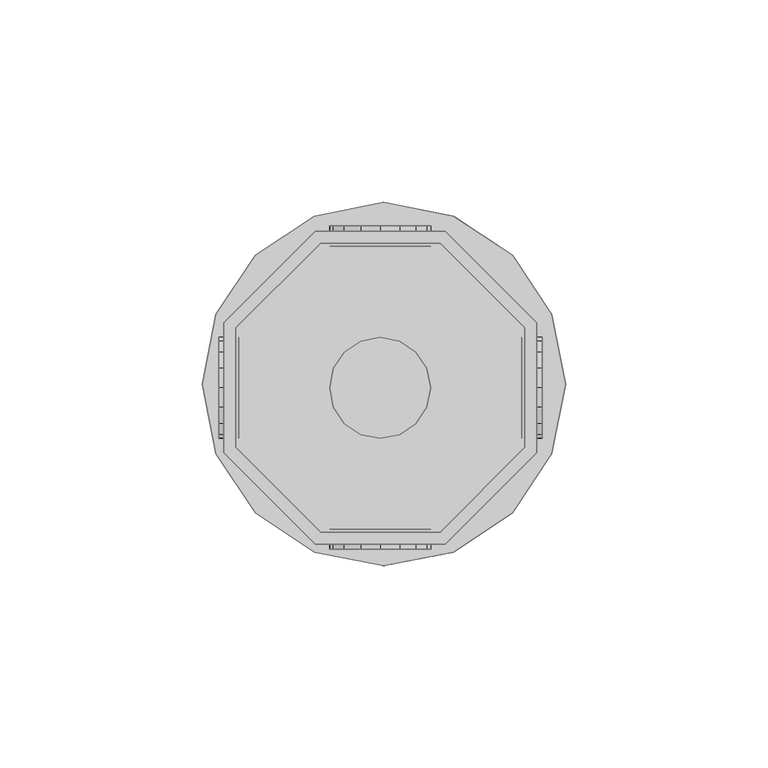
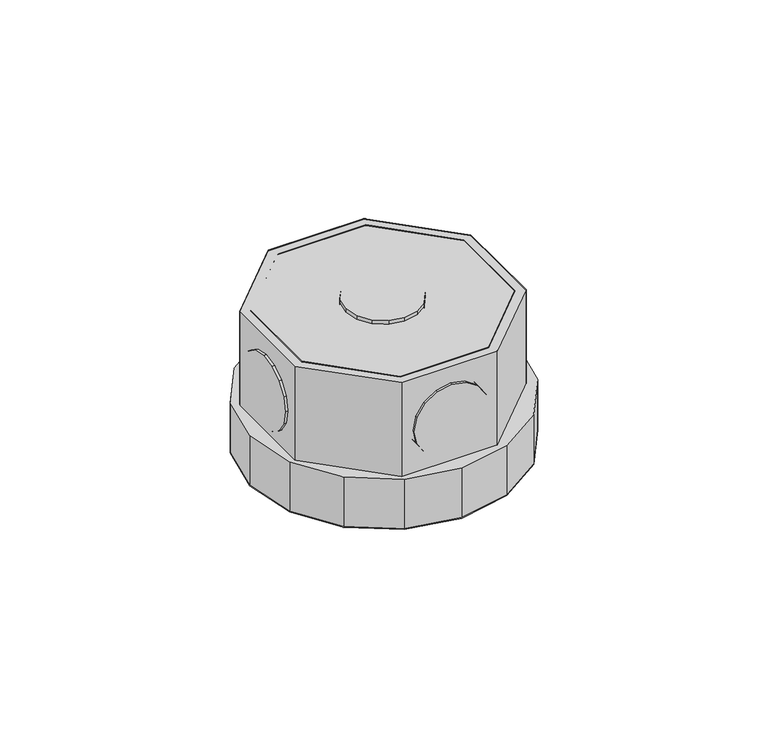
"""IFC4 building model written with IfcOpenShell, lengths in millimetres: light fixture geometry,  213538 :  213538."""

from ifc_helpers import new_model, si_unit, origin, place, context, project, spatial, triangles, source, transform, mapped, element, save


def light_fixture_ecf07cf6(model_context):
    return source(origin(), model_context, "Body", "Tessellation", [
        triangles([(12051.6004303, 18762.1001312, 2924.5999741), (12051.6004303, 18732.4996124, 2975.400071), (12051.6004303, 18732.4996124, 2924.5999741), (12051.6004303, 18762.1001312, 2975.400071), (12126.1005341, 18763.300058, 2924.5999741), (12126.1005341, 18731.1996918, 2975.400071), (12126.1005341, 18731.1996918, 2924.5999741), (12126.1005341, 18763.300058, 2975.400071), (12072.6003113, 18711.4997314, 2975.400071), (12072.6003113, 18711.4997314, 2924.5999741), (12103.3995941, 18785.9998352, 2924.5999741), (12103.3995941, 18785.9998352, 2975.400071), (12102.1996674, 18711.4997314, 2975.400071), (12102.1996674, 18711.4997314, 2924.5999741), (12071.3003906, 18785.9998352, 2924.5999741), (12071.3003906, 18785.9998352, 2975.400071), (12123.0995544, 18732.4996124, 2975.400071), (12123.0995544, 18732.4996124, 2924.5999741), (12048.5994507, 18763.300058, 2924.5999741), (12048.5994507, 18763.300058, 2975.400071), (12123.0995544, 18762.1001312, 2924.5999741), (12123.0995544, 18762.1001312, 2975.400071), (12048.5994507, 18731.1996918, 2975.400071), (12048.5994507, 18731.1996918, 2924.5999741), (12102.1996674, 18783.0000183, 2924.5999741), (12102.1996674, 18783.0000183, 2975.400071), (12071.3003906, 18708.4999146, 2975.400071), (12071.3003906, 18708.4999146, 2924.5999741), (12103.3995941, 18708.4999146, 2975.400071), (12072.6003113, 18783.0000183, 2975.400071), (12072.6003113, 18783.0000183, 2924.5999741), (12103.3995941, 18708.4999146, 2924.5999741), (12102.1996674, 18711.4997314, 2972.3999634), (12123.0995544, 18732.4996124, 2972.3999634), (12123.0995544, 18762.1001312, 2972.3999634), (12102.1996674, 18783.0000183, 2972.3999634), (12072.6003113, 18783.0000183, 2972.3999634), (12051.6004303, 18762.1001312, 2972.3999634), (12051.6004303, 18732.4996124, 2972.3999634), (12072.6003113, 18711.4997314, 2972.3999634), (12071.3003906, 18708.4999146, 2942.4000504), (12048.5994507, 18731.1996918, 2942.4000504), (12048.5994507, 18763.300058, 2942.4000504), (12071.3003906, 18785.9998352, 2942.4000504), (12103.3995941, 18785.9998352, 2942.4000504), (12126.1005341, 18763.300058, 2942.4000504), (12126.1005341, 18731.1996918, 2942.4000504), (12103.3995941, 18708.4999146, 2942.4000504), (12129.8003082, 18730.8997101, 2942.4000504), (12105.4994659, 18706.6000305, 2942.4000504), (12120.0997375, 18716.2994385, 2942.4000504), (12088.3005157, 18703.200238, 2942.4000504), (12071.0004089, 18706.6000305, 2942.4000504), (12056.4001373, 18716.2994385, 2942.4000504), (12046.6995667, 18730.8997101, 2942.4000504), (12043.2997742, 18748.1998169, 2942.4000504), (12046.6995667, 18765.3999298, 2942.4000504), (12071.0004089, 18789.6996094, 2942.4000504), (12056.4001373, 18780.0002014, 2942.4000504), (12133.3000946, 18748.1998169, 2942.4000504), (12129.8003082, 18765.3999298, 2942.4000504), (12120.0997375, 18780.0002014, 2942.4000504), (12105.4994659, 18789.6996094, 2942.4000504), (12088.3005157, 18793.2005585, 2942.4000504), (12105.4994659, 18706.6000305, 2924.5999741), (12129.8003082, 18730.8997101, 2924.5999741), (12120.0997375, 18716.2994385, 2924.5999741), (12088.3005157, 18703.200238, 2924.5999741), (12071.0004089, 18706.6000305, 2924.5999741), (12056.4001373, 18716.2994385, 2924.5999741), (12046.6995667, 18730.8997101, 2924.5999741), (12043.2997742, 18748.1998169, 2924.5999741), (12046.6995667, 18765.3999298, 2924.5999741), (12071.0004089, 18789.6996094, 2924.5999741), (12056.4001373, 18780.0002014, 2924.5999741), (12133.3000946, 18748.1998169, 2924.5999741), (12129.8003082, 18765.3999298, 2924.5999741), (12120.0997375, 18780.0002014, 2924.5999741), (12105.4994659, 18789.6996094, 2924.5999741), (12088.3005157, 18793.2005585, 2924.5999741), (12047.3995239, 18735.7005798, 2952.6000092), (12047.3995239, 18742.5001648, 2945.9001274), (12047.3995239, 18738.400415, 2948.5999626), (12047.3995239, 18734.799472, 2957.4000069), (12047.3995239, 18747.2998718, 2944.8998978), (12047.3995239, 18735.7005798, 2962.2000046), (12047.3995239, 18752.0995789, 2945.9001274), (12047.3995239, 18738.400415, 2966.2000511), (12047.3995239, 18756.1004974, 2948.5999626), (12047.3995239, 18742.5001648, 2968.8998863), (12047.3995239, 18758.8003326, 2952.6000092), (12047.3995239, 18747.2998718, 2969.900116), (12047.3995239, 18759.8002716, 2957.4000069), (12047.3995239, 18752.0995789, 2968.8998863), (12047.3995239, 18758.8003326, 2962.2000046), (12047.3995239, 18756.1004974, 2966.2000511), (12052.4003815, 18742.5001648, 2945.9001274), (12052.4003815, 18735.7005798, 2952.6000092), (12052.4003815, 18738.400415, 2948.5999626), (12052.4003815, 18747.2998718, 2944.8998978), (12052.4003815, 18734.799472, 2957.4000069), (12052.4003815, 18752.0995789, 2945.9001274), (12052.4003815, 18735.7005798, 2962.2000046), (12052.4003815, 18756.1004974, 2948.5999626), (12052.4003815, 18738.400415, 2966.2000511), (12052.4003815, 18742.5001648, 2968.8998863), (12052.4003815, 18758.8003326, 2952.6000092), (12052.4003815, 18747.2998718, 2969.900116), (12052.4003815, 18759.8002716, 2957.4000069), (12052.4003815, 18752.0995789, 2968.8998863), (12052.4003815, 18758.8003326, 2962.2000046), (12052.4003815, 18756.1004974, 2966.2000511), (12122.3995972, 18735.7005798, 2952.6000092), (12122.3995972, 18742.5001648, 2945.9001274), (12122.3995972, 18738.400415, 2948.5999626), (12122.3995972, 18734.799472, 2957.4000069), (12122.3995972, 18747.2998718, 2944.8998978), (12122.3995972, 18735.7005798, 2962.2000046), (12122.3995972, 18752.0995789, 2945.9001274), (12122.3995972, 18738.400415, 2966.2000511), (12122.3995972, 18756.1004974, 2948.5999626), (12122.3995972, 18742.5001648, 2968.8998863), (12122.3995972, 18758.8003326, 2952.6000092), (12122.3995972, 18747.2998718, 2969.900116), (12122.3995972, 18759.8002716, 2957.4000069), (12122.3995972, 18752.0995789, 2968.8998863), (12122.3995972, 18758.8003326, 2962.2000046), (12122.3995972, 18756.1004974, 2966.2000511), (12127.4004547, 18742.5001648, 2945.9001274), (12127.4004547, 18735.7005798, 2952.6000092), (12127.4004547, 18738.400415, 2948.5999626), (12127.4004547, 18747.2998718, 2944.8998978), (12127.4004547, 18734.799472, 2957.4000069), (12127.4004547, 18752.0995789, 2945.9001274), (12127.4004547, 18735.7005798, 2962.2000046), (12127.4004547, 18756.1004974, 2948.5999626), (12127.4004547, 18738.400415, 2966.2000511), (12127.4004547, 18742.5001648, 2968.8998863), (12127.4004547, 18758.8003326, 2952.6000092), (12127.4004547, 18747.2998718, 2969.900116), (12127.4004547, 18759.8002716, 2957.4000069), (12127.4004547, 18752.0995789, 2968.8998863), (12127.4004547, 18758.8003326, 2962.2000046), (12127.4004547, 18756.1004974, 2966.2000511), (12092.2002777, 18712.2996826, 2945.9001274), (12098.8998688, 18712.2996826, 2952.6000092), (12096.2000336, 18712.2996826, 2948.5999626), (12087.4005707, 18712.2996826, 2944.8998978), (12099.8998077, 18712.2996826, 2957.4000069), (12082.5997009, 18712.2996826, 2945.9001274), (12098.8998688, 18712.2996826, 2962.2000046), (12078.4999512, 18712.2996826, 2948.5999626), (12096.2000336, 18712.2996826, 2966.2000511), (12092.2002777, 18712.2996826, 2968.8998863), (12075.800116, 18712.2996826, 2952.6000092), (12087.4005707, 18712.2996826, 2969.900116), (12074.9001709, 18712.2996826, 2957.4000069), (12082.5997009, 18712.2996826, 2968.8998863), (12075.800116, 18712.2996826, 2962.2000046), (12078.4999512, 18712.2996826, 2966.2000511), (12098.8998688, 18707.2999878, 2952.6000092), (12092.2002777, 18707.2999878, 2945.9001274), (12096.2000336, 18707.2999878, 2948.5999626), (12099.8998077, 18707.2999878, 2957.4000069), (12087.4005707, 18707.2999878, 2944.8998978), (12098.8998688, 18707.2999878, 2962.2000046), (12082.5997009, 18707.2999878, 2945.9001274), (12096.2000336, 18707.2999878, 2966.2000511), (12078.4999512, 18707.2999878, 2948.5999626), (12092.2002777, 18707.2999878, 2968.8998863), (12075.800116, 18707.2999878, 2952.6000092), (12087.4005707, 18707.2999878, 2969.900116), (12074.9001709, 18707.2999878, 2957.4000069), (12082.5997009, 18707.2999878, 2968.8998863), (12075.800116, 18707.2999878, 2962.2000046), (12078.4999512, 18707.2999878, 2966.2000511), (12092.2002777, 18787.2997559, 2945.9001274), (12098.8998688, 18787.2997559, 2952.6000092), (12096.2000336, 18787.2997559, 2948.5999626), (12087.4005707, 18787.2997559, 2944.8998978), (12099.8998077, 18787.2997559, 2957.4000069), (12082.5997009, 18787.2997559, 2945.9001274), (12098.8998688, 18787.2997559, 2962.2000046), (12078.4999512, 18787.2997559, 2948.5999626), (12096.2000336, 18787.2997559, 2966.2000511), (12092.2002777, 18787.2997559, 2968.8998863), (12075.800116, 18787.2997559, 2952.6000092), (12087.4005707, 18787.2997559, 2969.900116), (12074.9001709, 18787.2997559, 2957.4000069), (12082.5997009, 18787.2997559, 2968.8998863), (12075.800116, 18787.2997559, 2962.2000046), (12078.4999512, 18787.2997559, 2966.2000511), (12098.8998688, 18782.300061, 2952.6000092), (12092.2002777, 18782.300061, 2945.9001274), (12096.2000336, 18782.300061, 2948.5999626), (12099.8998077, 18782.300061, 2957.4000069), (12087.4005707, 18782.300061, 2944.8998978), (12098.8998688, 18782.300061, 2962.2000046), (12082.5997009, 18782.300061, 2945.9001274), (12096.2000336, 18782.300061, 2966.2000511), (12078.4999512, 18782.300061, 2948.5999626), (12092.2002777, 18782.300061, 2968.8998863), (12075.800116, 18782.300061, 2952.6000092), (12087.4005707, 18782.300061, 2969.900116), (12074.9001709, 18782.300061, 2957.4000069), (12082.5997009, 18782.300061, 2968.8998863), (12075.800116, 18782.300061, 2962.2000046), (12078.4999512, 18782.300061, 2966.2000511), (12098.8998688, 18742.5001648, 2976.9999733), (12092.2002777, 18735.7005798, 2976.9999733), (12096.2000336, 18738.400415, 2976.9999733), (12087.4005707, 18734.799472, 2976.9999733), (12099.8998077, 18747.2998718, 2976.9999733), (12082.5997009, 18735.7005798, 2976.9999733), (12098.8998688, 18752.0995789, 2976.9999733), (12078.4999512, 18738.400415, 2976.9999733), (12096.2000336, 18756.1004974, 2976.9999733), (12075.800116, 18742.5001648, 2976.9999733), (12092.2002777, 18758.8003326, 2976.9999733), (12074.9001709, 18747.2998718, 2976.9999733), (12087.4005707, 18759.8002716, 2976.9999733), (12075.800116, 18752.0995789, 2976.9999733), (12082.5997009, 18758.8003326, 2976.9999733), (12078.4999512, 18756.1004974, 2976.9999733), (12092.2002777, 18735.7005798, 2971.9999878), (12098.8998688, 18742.5001648, 2971.9999878), (12096.2000336, 18738.400415, 2971.9999878), (12087.4005707, 18734.799472, 2971.9999878), (12099.8998077, 18747.2998718, 2971.9999878), (12082.5997009, 18735.7005798, 2971.9999878), (12098.8998688, 18752.0995789, 2971.9999878), (12078.4999512, 18738.400415, 2971.9999878), (12096.2000336, 18756.1004974, 2971.9999878), (12075.800116, 18742.5001648, 2971.9999878), (12092.2002777, 18758.8003326, 2971.9999878), (12074.9001709, 18747.2998718, 2971.9999878), (12087.4005707, 18759.8002716, 2971.9999878), (12075.800116, 18752.0995789, 2971.9999878), (12082.5997009, 18758.8003326, 2971.9999878), (12078.4999512, 18756.1004974, 2971.9999878)], [[1, 2, 3], [2, 1, 4], [5, 6, 7], [6, 5, 8], [3, 9, 10], [9, 3, 2], [11, 8, 5], [8, 11, 12], [10, 13, 14], [13, 10, 9], [15, 12, 11], [12, 15, 16], [14, 17, 18], [17, 14, 13], [19, 16, 15], [16, 19, 20], [17, 21, 18], [21, 17, 22], [23, 19, 24], [19, 23, 20], [22, 25, 21], [25, 22, 26], [27, 24, 28], [24, 27, 23], [6, 13, 29], [29, 13, 27], [27, 13, 9], [27, 9, 23], [23, 9, 2], [23, 2, 4], [23, 4, 20], [20, 4, 30], [8, 17, 6], [6, 17, 13], [17, 8, 22], [12, 22, 8], [22, 12, 26], [30, 26, 12], [16, 30, 12], [20, 30, 16], [30, 1, 31], [1, 30, 4], [6, 32, 7], [32, 6, 29], [32, 14, 7], [28, 14, 32], [14, 28, 10], [24, 10, 28], [10, 24, 3], [1, 3, 24], [19, 1, 24], [31, 1, 19], [7, 18, 5], [14, 18, 7], [5, 18, 21], [5, 21, 11], [11, 21, 25], [11, 25, 31], [11, 31, 15], [15, 31, 19], [26, 31, 25], [31, 26, 30], [29, 28, 32], [28, 29, 27], [17, 33, 34], [33, 17, 13], [35, 17, 34], [17, 35, 22], [36, 22, 35], [22, 36, 26], [37, 26, 36], [26, 37, 30], [38, 30, 37], [30, 38, 4], [2, 38, 39], [38, 2, 4], [17, 9, 13], [9, 17, 22], [9, 22, 2], [2, 22, 26], [2, 26, 4], [4, 26, 30], [13, 40, 33], [40, 13, 9], [40, 34, 33], [35, 34, 40], [35, 40, 39], [35, 39, 36], [36, 39, 38], [36, 38, 37], [9, 39, 40], [39, 9, 2], [24, 41, 28], [41, 24, 42], [19, 42, 24], [42, 19, 43], [44, 19, 15], [19, 44, 43], [45, 15, 11], [15, 45, 44], [46, 11, 5], [11, 46, 45], [47, 5, 7], [5, 47, 46], [32, 47, 7], [47, 32, 48], [28, 48, 32], [48, 28, 41], [49, 50, 51], [48, 50, 49], [50, 48, 52], [41, 52, 48], [52, 41, 53], [53, 41, 54], [42, 54, 41], [54, 42, 55], [55, 42, 43], [55, 43, 56], [56, 43, 57], [57, 43, 44], [57, 44, 58], [57, 58, 59], [47, 49, 60], [49, 47, 48], [47, 60, 46], [61, 46, 60], [46, 61, 62], [46, 62, 45], [45, 62, 63], [44, 45, 63], [44, 63, 64], [44, 64, 58], [65, 66, 67], [66, 65, 32], [68, 32, 65], [32, 68, 28], [28, 68, 69], [70, 28, 69], [28, 70, 24], [71, 24, 70], [19, 24, 71], [19, 71, 72], [73, 19, 72], [19, 73, 15], [74, 15, 73], [74, 73, 75], [76, 66, 7], [32, 7, 66], [5, 76, 7], [76, 5, 77], [77, 5, 78], [11, 78, 5], [78, 11, 79], [79, 11, 15], [79, 15, 80], [80, 15, 74], [57, 75, 73], [75, 57, 59], [56, 73, 72], [73, 56, 57], [55, 72, 71], [72, 55, 56], [54, 71, 70], [71, 54, 55], [53, 70, 69], [70, 53, 54], [52, 69, 68], [69, 52, 53], [50, 68, 65], [68, 50, 52], [51, 65, 67], [65, 51, 50], [66, 51, 67], [51, 66, 49], [76, 49, 66], [49, 76, 60], [77, 60, 76], [60, 77, 61], [78, 61, 77], [61, 78, 62], [79, 62, 78], [62, 79, 63], [80, 63, 79], [63, 80, 64], [75, 58, 74], [58, 75, 59], [74, 64, 80], [64, 74, 58], [81, 82, 83], [82, 81, 84], [85, 82, 84], [85, 84, 86], [87, 85, 86], [87, 86, 88], [87, 88, 89], [89, 88, 90], [89, 90, 91], [91, 90, 92], [91, 92, 93], [93, 92, 94], [93, 94, 95], [95, 94, 96], [97, 98, 99], [98, 97, 100], [101, 98, 100], [101, 100, 102], [103, 101, 102], [103, 102, 104], [103, 104, 105], [105, 104, 106], [106, 104, 107], [106, 107, 108], [108, 107, 109], [108, 109, 110], [110, 109, 111], [110, 111, 112], [87, 104, 102], [104, 87, 89], [85, 102, 100], [102, 85, 87], [82, 100, 97], [100, 82, 85], [83, 97, 99], [97, 83, 82], [98, 83, 99], [83, 98, 81], [101, 81, 98], [81, 101, 84], [103, 84, 101], [84, 103, 86], [105, 86, 103], [86, 105, 88], [106, 88, 105], [88, 106, 90], [108, 90, 106], [90, 108, 92], [110, 92, 108], [92, 110, 94], [112, 94, 110], [94, 112, 96], [95, 112, 111], [112, 95, 96], [93, 111, 109], [111, 93, 95], [89, 107, 104], [107, 89, 91], [91, 109, 107], [109, 91, 93], [113, 114, 115], [114, 113, 116], [117, 114, 116], [117, 116, 118], [119, 117, 118], [119, 118, 120], [119, 120, 121], [121, 120, 122], [121, 122, 123], [123, 122, 124], [123, 124, 125], [125, 124, 126], [125, 126, 127], [127, 126, 128], [129, 130, 131], [130, 129, 132], [133, 130, 132], [133, 132, 134], [135, 133, 134], [135, 134, 136], [135, 136, 137], [137, 136, 138], [138, 136, 139], [138, 139, 140], [140, 139, 141], [140, 141, 142], [142, 141, 143], [142, 143, 144], [119, 136, 134], [136, 119, 121], [117, 134, 132], [134, 117, 119], [114, 132, 129], [132, 114, 117], [115, 129, 131], [129, 115, 114], [130, 115, 131], [115, 130, 113], [133, 113, 130], [113, 133, 116], [135, 116, 133], [116, 135, 118], [137, 118, 135], [118, 137, 120], [138, 120, 137], [120, 138, 122], [140, 122, 138], [122, 140, 124], [142, 124, 140], [124, 142, 126], [144, 126, 142], [126, 144, 128], [127, 144, 143], [144, 127, 128], [125, 143, 141], [143, 125, 127], [121, 139, 136], [139, 121, 123], [123, 141, 139], [141, 123, 125], [145, 146, 147], [146, 145, 148], [149, 146, 148], [149, 148, 150], [151, 149, 150], [151, 150, 152], [151, 152, 153], [153, 152, 154], [154, 152, 155], [154, 155, 156], [156, 155, 157], [156, 157, 158], [158, 157, 159], [158, 159, 160], [161, 162, 163], [162, 161, 164], [165, 162, 164], [165, 164, 166], [167, 165, 166], [167, 166, 168], [169, 167, 168], [169, 168, 170], [169, 170, 171], [171, 170, 172], [171, 172, 173], [173, 172, 174], [173, 174, 175], [175, 174, 176], [158, 176, 174], [176, 158, 160], [156, 174, 172], [174, 156, 158], [154, 172, 170], [172, 154, 156], [153, 170, 168], [170, 153, 154], [151, 168, 166], [168, 151, 153], [149, 166, 164], [166, 149, 151], [146, 164, 161], [164, 146, 149], [147, 161, 163], [161, 147, 146], [162, 147, 163], [147, 162, 145], [165, 145, 162], [145, 165, 148], [167, 148, 165], [148, 167, 150], [169, 150, 167], [150, 169, 152], [171, 152, 169], [152, 171, 155], [173, 155, 171], [155, 173, 157], [176, 159, 175], [159, 176, 160], [175, 157, 173], [157, 175, 159], [177, 178, 179], [178, 177, 180], [181, 178, 180], [181, 180, 182], [183, 181, 182], [183, 182, 184], [183, 184, 185], [185, 184, 186], [186, 184, 187], [186, 187, 188], [188, 187, 189], [188, 189, 190], [190, 189, 191], [190, 191, 192], [193, 194, 195], [194, 193, 196], [197, 194, 196], [197, 196, 198], [199, 197, 198], [199, 198, 200], [201, 199, 200], [201, 200, 202], [201, 202, 203], [203, 202, 204], [203, 204, 205], [205, 204, 206], [205, 206, 207], [207, 206, 208], [190, 208, 206], [208, 190, 192], [188, 206, 204], [206, 188, 190], [186, 204, 202], [204, 186, 188], [185, 202, 200], [202, 185, 186], [183, 200, 198], [200, 183, 185], [181, 198, 196], [198, 181, 183], [178, 196, 193], [196, 178, 181], [179, 193, 195], [193, 179, 178], [194, 179, 195], [179, 194, 177], [197, 177, 194], [177, 197, 180], [199, 180, 197], [180, 199, 182], [201, 182, 199], [182, 201, 184], [203, 184, 201], [184, 203, 187], [205, 187, 203], [187, 205, 189], [208, 191, 207], [191, 208, 192], [207, 189, 205], [189, 207, 191], [209, 210, 211], [212, 210, 209], [212, 209, 213], [214, 212, 213], [214, 213, 215], [216, 214, 215], [216, 215, 217], [216, 217, 218], [218, 217, 219], [218, 219, 220], [220, 219, 221], [220, 221, 222], [222, 221, 223], [222, 223, 224], [225, 226, 227], [226, 225, 228], [229, 226, 228], [229, 228, 230], [231, 229, 230], [231, 230, 232], [231, 232, 233], [233, 232, 234], [233, 234, 235], [235, 234, 236], [235, 236, 237], [237, 236, 238], [237, 238, 239], [239, 238, 240], [222, 240, 238], [240, 222, 224], [220, 238, 236], [238, 220, 222], [218, 236, 234], [236, 218, 220], [216, 234, 232], [234, 216, 218], [214, 232, 230], [232, 214, 216], [212, 230, 228], [230, 212, 214], [210, 228, 225], [228, 210, 212], [211, 225, 227], [225, 211, 210], [226, 211, 227], [211, 226, 209], [229, 209, 226], [209, 229, 213], [231, 213, 229], [213, 231, 215], [233, 215, 231], [215, 233, 217], [235, 217, 233], [217, 235, 219], [237, 219, 235], [219, 237, 221], [240, 223, 239], [223, 240, 224], [239, 221, 237], [221, 239, 223]], closed=False),
    ])


if __name__ == "__main__":
    model = new_model("IFC4")
    model_context = context("Model", 3, world=origin())
    ifc_project = project(units=[si_unit("LENGTHUNIT", "METRE", prefix="MILLI")], contexts=[model_context])
    site = spatial("IfcSite", under=ifc_project)
    building = spatial("IfcBuilding", under=site)
    placement = place(None, origin())
    light_fixture_shape = light_fixture_ecf07cf6(model_context)
    element("IfcLightFixture", 1, ObjectType=" 213538 :  213538", at=placement, inside=building, context=model_context, shape_type="MappedRepresentation", body=[
        mapped(light_fixture_shape, transform((0.0, 0.0, 0.0), x_axis=(1.0, 0.0, 0.0), y_axis=(0.0, 1.0, 0.0), z_axis=(0.0, 0.0, 1.0))),
    ])
    save(model, "model.ifc")
